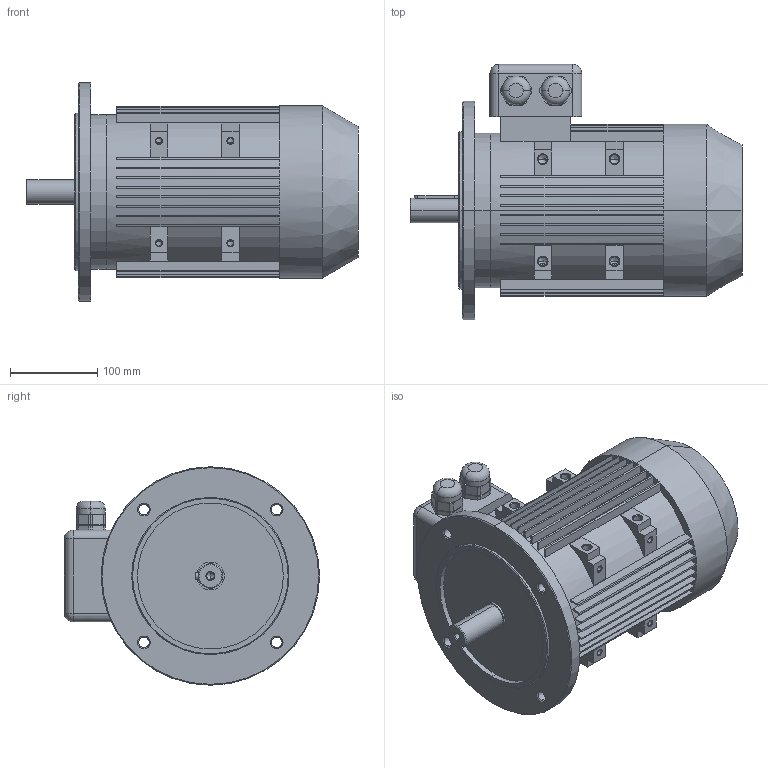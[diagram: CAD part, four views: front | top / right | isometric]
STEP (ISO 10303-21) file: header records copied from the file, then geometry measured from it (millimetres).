
FILE_DESCRIPTION (( 'STEP AP203' ), '1' );
FILE_NAME ('IE1_100L-250-28(B5).STEP', '2023-09-06T13:04:40', ( '' ), ( '' ), 'SwSTEP 2.0', 'SolidWorks 2022', '' );
FILE_SCHEMA (( 'CONFIG_CONTROL_DESIGN' ));
Length unit declared in the file: millimetre
Products named in the file (1): IE1_100L-250-28(B5)
Bounding box: 380 x 292 x 250 mm (x, y, z)
Volume: 9489343.4 mm3; surface area: 471229.6 mm2
Topology: 1 solids, 1 shells, 402 faces, 1068 edges, 671 vertices
Faces by surface type: plane 231, cylinder 103, cone 60, torus 4, sphere 4
Entity records: 12783 total; most frequent: CARTESIAN_POINT 2498, DIRECTION 2228, ORIENTED_EDGE 2092, EDGE_CURVE 1046, AXIS2_PLACEMENT_3D 797, VERTEX_POINT 671, LINE 634, VECTOR 634
